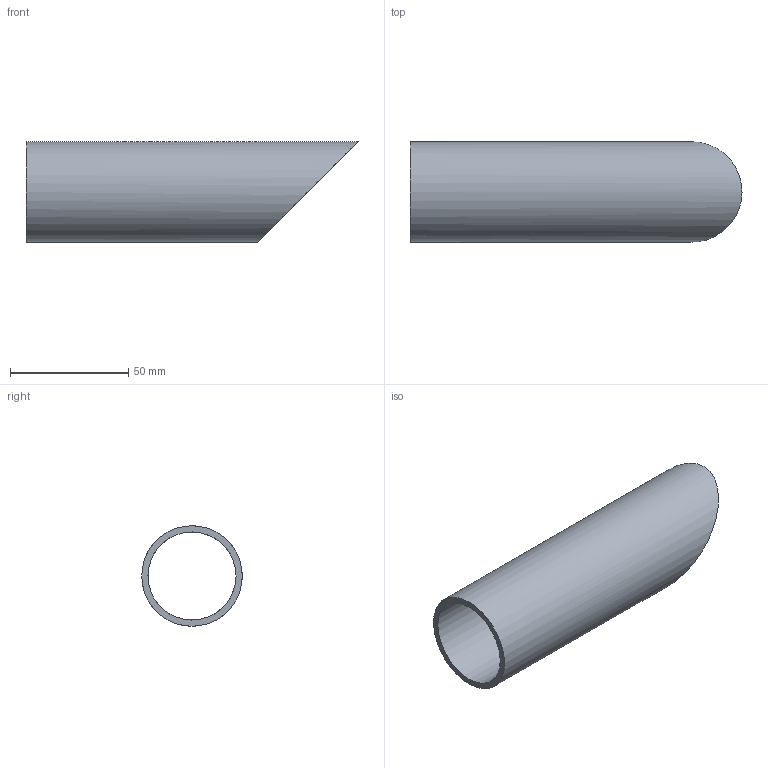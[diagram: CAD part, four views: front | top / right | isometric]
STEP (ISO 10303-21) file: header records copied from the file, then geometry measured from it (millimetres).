
FILE_DESCRIPTION(/* description */ (''),/* implementation_level */ '2;1');
FILE_NAME(/* name */ 'Pos116-Constructie buis 42.4x2.6-S235JRH-12st',/* time_stamp */ '2024-08-06T11:42:42+02:00',/* author */ (''),/* organization */ (''),/* preprocessor_version */ 'ST-DEVELOPER v16.5',/* originating_system */ 'HiCAD 2024 2901.2 Build 361',/* authorisation */ '');
FILE_SCHEMA (('AUTOMOTIVE_DESIGN { 1 0 10303 214 1 1 1 1 }'));
Length unit declared in the file: millimetre
Products named in the file (1): Pos116-Constructie buis 42.4x2.6-S235JRH-12st
Bounding box: 140.2 x 42.4 x 42.4 mm (x, y, z)
Volume: 38685.9 mm3; surface area: 30543.3 mm2
Topology: 1 solids, 1 shells, 4 faces, 8 edges, 6 vertices
Faces by surface type: cylinder 2, plane 2
Full cylindrical faces by diameter (mm): 37.2 x1, 42.4 x1
Entity records: 146 total; most frequent: DIRECTION 16, CARTESIAN_POINT 12, PRESENTATION_STYLE_ASSIGNMENT 9, COLOUR_RGB 9, DRAUGHTING_PRE_DEFINED_CURVE_FONT 8, CURVE_STYLE 8, OVER_RIDING_STYLED_ITEM 8, ORIENTED_EDGE 8
